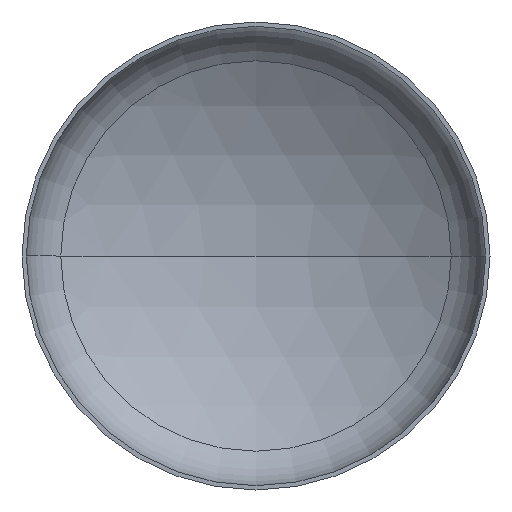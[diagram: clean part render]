
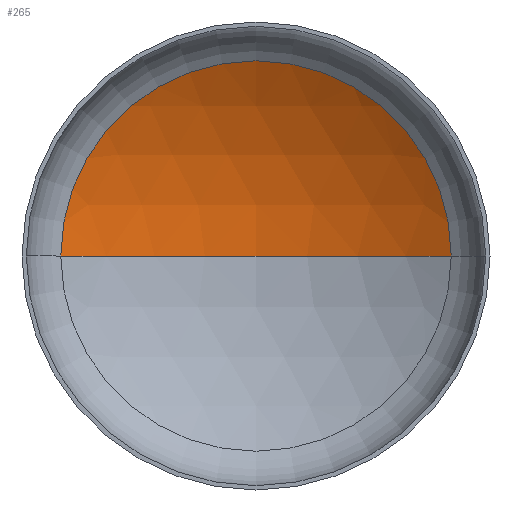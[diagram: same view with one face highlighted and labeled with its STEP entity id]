
A CAD part, front view. The second image highlights one B-rep face of the part: STEP entity #265.
In plain terms, the highlighted spherical face has radius 3200 mm.
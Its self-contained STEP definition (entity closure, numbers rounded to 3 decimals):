
#4 = DIRECTION ( 'NONE',  ( 1., 0., 0. ) ) ;
#6 = AXIS2_PLACEMENT_3D ( 'NONE', #147, #86, #130 ) ;
#19 = AXIS2_PLACEMENT_3D ( 'NONE', #396, #262, #4 ) ;
#23 = AXIS2_PLACEMENT_3D ( 'NONE', #153, #166, #168 ) ;
#24 = EDGE_LOOP ( 'NONE', ( #119, #66, #143 ) ) ;
#39 = VERTEX_POINT ( 'NONE', #373 ) ;
#54 = VERTEX_POINT ( 'NONE', #256 ) ;
#56 = VERTEX_POINT ( 'NONE', #248 ) ;
#59 = AXIS2_PLACEMENT_3D ( 'NONE', #192, #202, #214 ) ;
#66 = ORIENTED_EDGE ( 'NONE', *, *, #339, .T. ) ;
#86 = DIRECTION ( 'NONE',  ( 0., -1., 0. ) ) ;
#119 = ORIENTED_EDGE ( 'NONE', *, *, #345, .F. ) ;
#130 = DIRECTION ( 'NONE',  ( 1., 0., 0. ) ) ;
#143 = ORIENTED_EDGE ( 'NONE', *, *, #362, .T. ) ;
#147 = CARTESIAN_POINT ( 'NONE',  ( 0., 644.761, 0. ) ) ;
#153 = CARTESIAN_POINT ( 'NONE',  ( 0., -2085.702, 0. ) ) ;
#166 = DIRECTION ( 'NONE',  ( 0., 0., -1. ) ) ;
#168 = DIRECTION ( 'NONE',  ( -1., 0., 0. ) ) ;
#189 = CIRCLE ( 'NONE', #19, 3200. ) ;
#192 = CARTESIAN_POINT ( 'NONE',  ( 0., -2085.702, 0. ) ) ;
#202 = DIRECTION ( 'NONE',  ( 0., 0., -1. ) ) ;
#214 = DIRECTION ( 'NONE',  ( -1., 0., 0. ) ) ;
#248 = CARTESIAN_POINT ( 'NONE',  ( -1668.704, 644.761, 0. ) ) ;
#250 = CIRCLE ( 'NONE', #6, 1668.704 ) ;
#256 = CARTESIAN_POINT ( 'NONE',  ( 0., 1114.298, 0. ) ) ;
#261 = CIRCLE ( 'NONE', #23, 3200. ) ;
#262 = DIRECTION ( 'NONE',  ( 0., 0., 1. ) ) ;
#265 = ADVANCED_FACE ( 'NONE', ( #269 ), #387, .F. ) ;
#269 = FACE_OUTER_BOUND ( 'NONE', #24, .T. ) ;
#339 = EDGE_CURVE ( 'NONE', #54, #39, #261, .T. ) ;
#345 = EDGE_CURVE ( 'NONE', #54, #56, #189, .T. ) ;
#362 = EDGE_CURVE ( 'NONE', #39, #56, #250, .T. ) ;
#373 = CARTESIAN_POINT ( 'NONE',  ( 1668.704, 644.761, 0. ) ) ;
#387 = SPHERICAL_SURFACE ( 'NONE', #59, 3200. ) ;
#396 = CARTESIAN_POINT ( 'NONE',  ( 0., -2085.702, 0. ) ) ;
